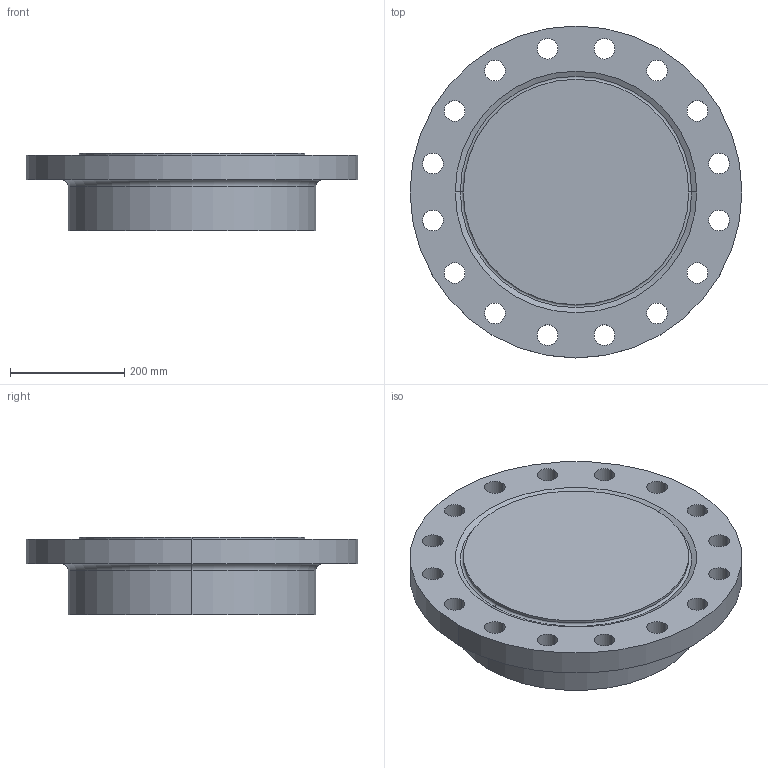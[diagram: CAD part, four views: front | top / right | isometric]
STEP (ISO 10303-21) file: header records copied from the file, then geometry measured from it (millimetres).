
FILE_DESCRIPTION (( 'STEP AP214' ), '1' );
FILE_NAME ('PN40 DN350 Type 21(i) - Type H Face.STEP', '2019-01-05T21:45:14', ( '' ), ( '' ), 'SwSTEP 2.0', 'SolidWorks 2019', '' );
FILE_SCHEMA (( 'AUTOMOTIVE_DESIGN' ));
Length unit declared in the file: millimetre
Products named in the file (1): PN40 DN350 Type 21(i) - Type H Face
Bounding box: 580 x 580 x 135 mm (x, y, z)
Volume: 24059070 mm3; surface area: 775453.9 mm2
Topology: 1 solids, 1 shells, 48 faces, 126 edges, 82 vertices
Faces by surface type: cylinder 38, torus 4, plane 4, cone 2
Entity records: 1626 total; most frequent: DIRECTION 310, CARTESIAN_POINT 257, ORIENTED_EDGE 252, AXIS2_PLACEMENT_3D 135, EDGE_CURVE 126, CIRCLE 86, VERTEX_POINT 82, EDGE_LOOP 82
